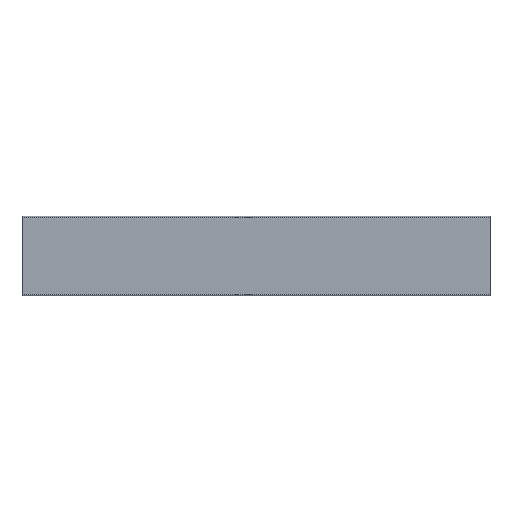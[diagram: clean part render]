
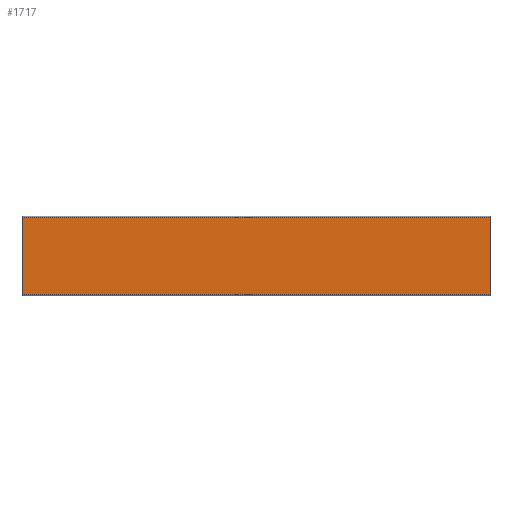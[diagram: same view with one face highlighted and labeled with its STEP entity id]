
A CAD part, front view. The second image highlights one B-rep face of the part: STEP entity #1717.
In plain terms, the highlighted planar face has unit normal (0, -1, 0).
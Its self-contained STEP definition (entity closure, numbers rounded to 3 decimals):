
#11 = DIRECTION ( 'NONE',  ( 0., 1., 0. ) ) ;
#21 = DIRECTION ( 'NONE',  ( 0., 0., 1. ) ) ;
#31 = DIRECTION ( 'NONE',  ( 0., 0., -1. ) ) ;
#49 = EDGE_CURVE ( 'NONE', #1569, #1447, #1801, .T. ) ;
#142 = PLANE ( 'NONE',  #1171 ) ;
#152 = CARTESIAN_POINT ( 'NONE',  ( 500., -56.5, -41.275 ) ) ;
#171 = ORIENTED_EDGE ( 'NONE', *, *, #283, .T. ) ;
#283 = EDGE_CURVE ( 'NONE', #1447, #2114, #1127, .T. ) ;
#292 = VECTOR ( 'NONE', #31, 1000. ) ;
#484 = CARTESIAN_POINT ( 'NONE',  ( 0., -56.5, -41.275 ) ) ;
#494 = VECTOR ( 'NONE', #597, 1000. ) ;
#587 = CARTESIAN_POINT ( 'NONE',  ( 0., -56.5, -41.275 ) ) ;
#597 = DIRECTION ( 'NONE',  ( -1., 0., 0. ) ) ;
#612 = ORIENTED_EDGE ( 'NONE', *, *, #1241, .F. ) ;
#818 = DIRECTION ( 'NONE',  ( -1., 0., 0. ) ) ;
#916 = CARTESIAN_POINT ( 'NONE',  ( 500., -56.5, 41.275 ) ) ;
#1127 = LINE ( 'NONE', #587, #1156 ) ;
#1156 = VECTOR ( 'NONE', #1178, 1000. ) ;
#1165 = CARTESIAN_POINT ( 'NONE',  ( 500., -56.5, -41.275 ) ) ;
#1171 = AXIS2_PLACEMENT_3D ( 'NONE', #152, #11, #21 ) ;
#1178 = DIRECTION ( 'NONE',  ( 0., 0., -1. ) ) ;
#1188 = ORIENTED_EDGE ( 'NONE', *, *, #2059, .F. ) ;
#1241 = EDGE_CURVE ( 'NONE', #2018, #2114, #1364, .T. ) ;
#1246 = CARTESIAN_POINT ( 'NONE',  ( 0., -56.5, 41.275 ) ) ;
#1293 = VECTOR ( 'NONE', #818, 1000. ) ;
#1349 = FACE_OUTER_BOUND ( 'NONE', #1945, .T. ) ;
#1364 = LINE ( 'NONE', #1165, #1293 ) ;
#1447 = VERTEX_POINT ( 'NONE', #1246 ) ;
#1508 = ORIENTED_EDGE ( 'NONE', *, *, #49, .T. ) ;
#1569 = VERTEX_POINT ( 'NONE', #916 ) ;
#1584 = CARTESIAN_POINT ( 'NONE',  ( 500., -56.5, 41.275 ) ) ;
#1717 = ADVANCED_FACE ( 'NONE', ( #1349 ), #142, .F. ) ;
#1801 = LINE ( 'NONE', #1584, #494 ) ;
#1945 = EDGE_LOOP ( 'NONE', ( #171, #612, #1188, #1508 ) ) ;
#1960 = CARTESIAN_POINT ( 'NONE',  ( 500., -56.5, -41.275 ) ) ;
#1967 = LINE ( 'NONE', #1960, #292 ) ;
#1988 = CARTESIAN_POINT ( 'NONE',  ( 500., -56.5, -41.275 ) ) ;
#2018 = VERTEX_POINT ( 'NONE', #1988 ) ;
#2059 = EDGE_CURVE ( 'NONE', #1569, #2018, #1967, .T. ) ;
#2114 = VERTEX_POINT ( 'NONE', #484 ) ;
